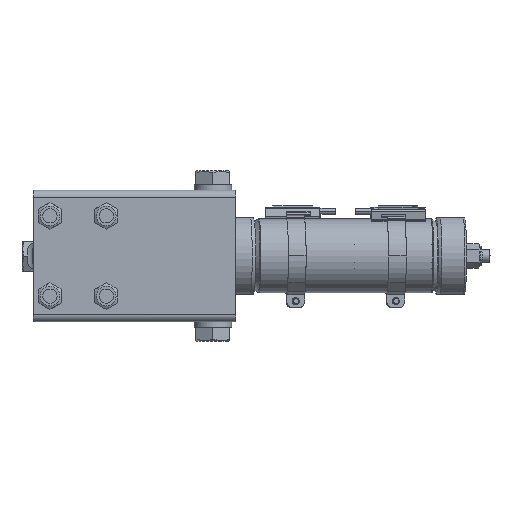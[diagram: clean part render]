
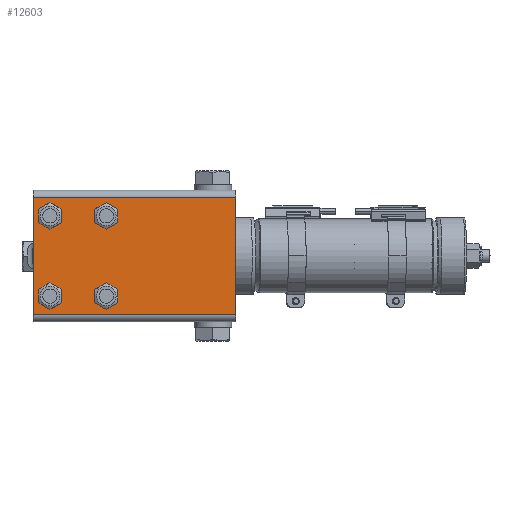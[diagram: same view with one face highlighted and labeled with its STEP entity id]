
A CAD part, front view. The second image highlights one B-rep face of the part: STEP entity #12603.
In plain terms, the highlighted planar face has unit normal (0, -1, 0).
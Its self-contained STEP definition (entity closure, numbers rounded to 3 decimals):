
#594=FACE_BOUND('',#1901,.T.);
#595=FACE_BOUND('',#1902,.T.);
#596=FACE_BOUND('',#1903,.T.);
#597=FACE_BOUND('',#1904,.T.);
#729=PLANE('',#13943);
#1182=FACE_OUTER_BOUND('',#1900,.T.);
#1900=EDGE_LOOP('',(#8630,#8631,#8632,#8633));
#1901=EDGE_LOOP('',(#8634));
#1902=EDGE_LOOP('',(#8635));
#1903=EDGE_LOOP('',(#8636));
#1904=EDGE_LOOP('',(#8637));
#2750=LINE('',#19405,#3805);
#2752=LINE('',#19418,#3807);
#2754=LINE('',#19424,#3809);
#2755=LINE('',#19425,#3810);
#3805=VECTOR('',#15426,10.);
#3807=VECTOR('',#15432,10.);
#3809=VECTOR('',#15438,10.);
#3810=VECTOR('',#15439,10.);
#4857=CIRCLE('',#13928,4.15);
#4859=CIRCLE('',#13931,4.15);
#4861=CIRCLE('',#13934,4.15);
#4863=CIRCLE('',#13937,4.15);
#5506=VERTEX_POINT('',#19379);
#5508=VERTEX_POINT('',#19385);
#5510=VERTEX_POINT('',#19391);
#5512=VERTEX_POINT('',#19397);
#5514=VERTEX_POINT('',#19402);
#5515=VERTEX_POINT('',#19404);
#5518=VERTEX_POINT('',#19417);
#5520=VERTEX_POINT('',#19423);
#6743=EDGE_CURVE('',#5506,#5506,#4857,.T.);
#6746=EDGE_CURVE('',#5508,#5508,#4859,.T.);
#6749=EDGE_CURVE('',#5510,#5510,#4861,.T.);
#6752=EDGE_CURVE('',#5512,#5512,#4863,.T.);
#6754=EDGE_CURVE('',#5514,#5515,#2750,.T.);
#6758=EDGE_CURVE('',#5515,#5518,#2752,.T.);
#6761=EDGE_CURVE('',#5514,#5520,#2754,.T.);
#6762=EDGE_CURVE('',#5518,#5520,#2755,.T.);
#8630=ORIENTED_EDGE('',*,*,#6754,.F.);
#8631=ORIENTED_EDGE('',*,*,#6761,.T.);
#8632=ORIENTED_EDGE('',*,*,#6762,.F.);
#8633=ORIENTED_EDGE('',*,*,#6758,.F.);
#8634=ORIENTED_EDGE('',*,*,#6743,.T.);
#8635=ORIENTED_EDGE('',*,*,#6746,.T.);
#8636=ORIENTED_EDGE('',*,*,#6749,.T.);
#8637=ORIENTED_EDGE('',*,*,#6752,.T.);
#12603=ADVANCED_FACE('',(#1182,#594,#595,#596,#597),#729,.T.);
#13928=AXIS2_PLACEMENT_3D('',#19381,#15399,#15400);
#13931=AXIS2_PLACEMENT_3D('',#19387,#15406,#15407);
#13934=AXIS2_PLACEMENT_3D('',#19393,#15413,#15414);
#13937=AXIS2_PLACEMENT_3D('',#19399,#15420,#15421);
#13943=AXIS2_PLACEMENT_3D('',#19422,#15436,#15437);
#15399=DIRECTION('center_axis',(0.,1.,0.));
#15400=DIRECTION('ref_axis',(-1.,0.,0.));
#15406=DIRECTION('center_axis',(0.,1.,0.));
#15407=DIRECTION('ref_axis',(-1.,0.,0.));
#15413=DIRECTION('center_axis',(0.,1.,0.));
#15414=DIRECTION('ref_axis',(-1.,0.,0.));
#15420=DIRECTION('center_axis',(0.,1.,0.));
#15421=DIRECTION('ref_axis',(-1.,0.,0.));
#15426=DIRECTION('',(-1.,0.,0.));
#15432=DIRECTION('',(0.,0.,1.));
#15436=DIRECTION('center_axis',(0.,-1.,0.));
#15437=DIRECTION('ref_axis',(1.,0.,0.));
#15438=DIRECTION('',(0.,0.,1.));
#15439=DIRECTION('',(1.,0.,0.));
#19379=CARTESIAN_POINT('',(45.45,0.,-11.2));
#19381=CARTESIAN_POINT('Origin',(41.3,0.,-11.2));
#19385=CARTESIAN_POINT('',(13.65,0.,-56.4));
#19387=CARTESIAN_POINT('Origin',(9.5,0.,-56.4));
#19391=CARTESIAN_POINT('',(45.45,0.,-56.4));
#19393=CARTESIAN_POINT('Origin',(41.3,0.,-56.4));
#19397=CARTESIAN_POINT('',(13.65,0.,-11.2));
#19399=CARTESIAN_POINT('Origin',(9.5,0.,-11.2));
#19402=CARTESIAN_POINT('',(114.3,0.,-66.8));
#19404=CARTESIAN_POINT('',(0.,0.,-66.8));
#19405=CARTESIAN_POINT('',(33.77,0.,-66.8));
#19417=CARTESIAN_POINT('',(0.,0.,-0.8));
#19418=CARTESIAN_POINT('',(0.,0.,0.));
#19422=CARTESIAN_POINT('Origin',(0.,0.,0.));
#19423=CARTESIAN_POINT('',(114.3,0.,-0.8));
#19424=CARTESIAN_POINT('',(114.3,0.,0.));
#19425=CARTESIAN_POINT('',(33.77,0.,-0.8));
